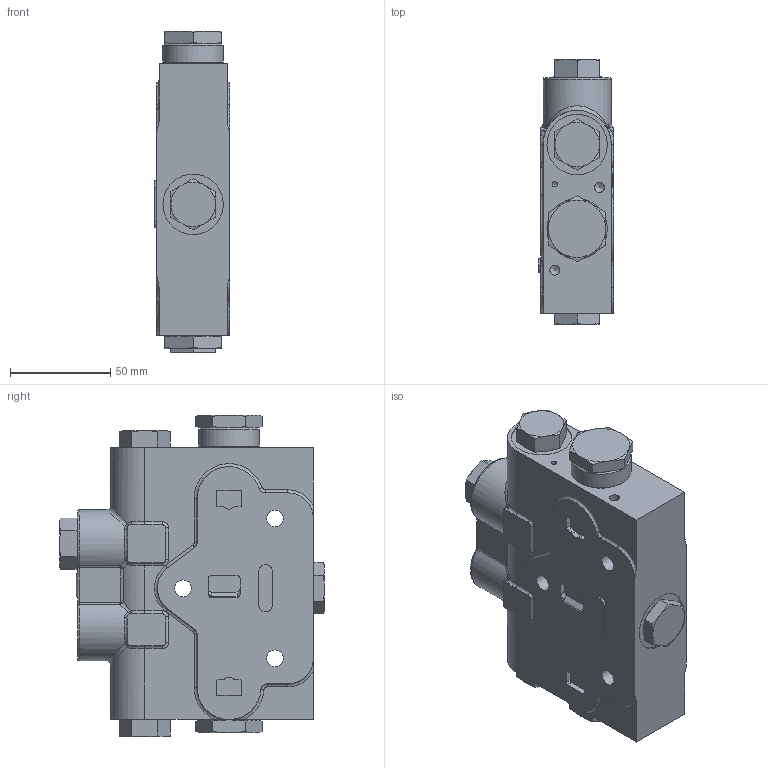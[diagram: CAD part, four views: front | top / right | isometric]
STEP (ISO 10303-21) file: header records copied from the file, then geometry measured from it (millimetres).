
FILE_DESCRIPTION((''),'2;1');
FILE_NAME('C:\Vault\Workspace\z_ShellModels\SV\SVIM1C1_Shell.stp','2012-03-19T08:52:46',('PetersW'),(''),'Autodesk Inventor 2012','Autodesk Inventor 2012','');
FILE_SCHEMA(('AUTOMOTIVE_DESIGN { 1 0 10303 214 1 1 1 1 }'));
Length unit declared in the file: inch
Products named in the file (7): SVIM1C1_Shell; 625894001_Shell; SpoolAssy_SVIM_Shell; 200300040; 660280004_Shell; 671600049; 670500055
Assembly tree (7 placements, depth 2):
  SVIM1C1_Shell
    625894001_Shell
    SpoolAssy_SVIM_Shell
    200300040  x2
    660280004_Shell
    671600049
    670500055
Bounding box: 37.75 x 132.28 x 160.76 mm (x, y, z)
Volume: 501506.3 mm3; surface area: 90478.8 mm2
Topology: 8 solids, 8 shells, 693 faces, 1753 edges, 1104 vertices
Faces by surface type: plane 339, cylinder 146, cone 105, bspline 52, torus 47, sphere 4
Full cylindrical faces by diameter (mm): 2.667 x1, 4.978 x4, 7.938 x2, 8.331 x3, 11.125 x1, 12.7 x2, 12.764 x1, 13.297 x3, 15.799 x2, 15.875 x2, 15.913 x2, 16.053 x1, 16.751 x3, 16.764 x2, 17.501 x5, 18.999 x1, 19.05 x3, 30.15 x1, 30.175 x3
Entity records: 20635 total; most frequent: CARTESIAN_POINT 5018, ORIENTED_EDGE 3180, DIRECTION 3133, EDGE_CURVE 1590, AXIS2_PLACEMENT_3D 1134, VERTEX_POINT 1045, VECTOR 865, LINE 865
